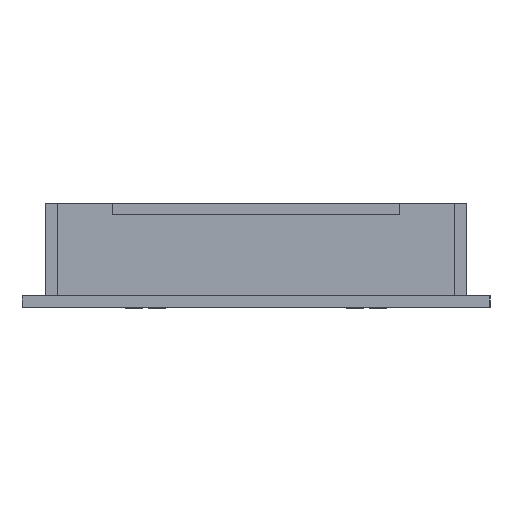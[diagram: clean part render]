
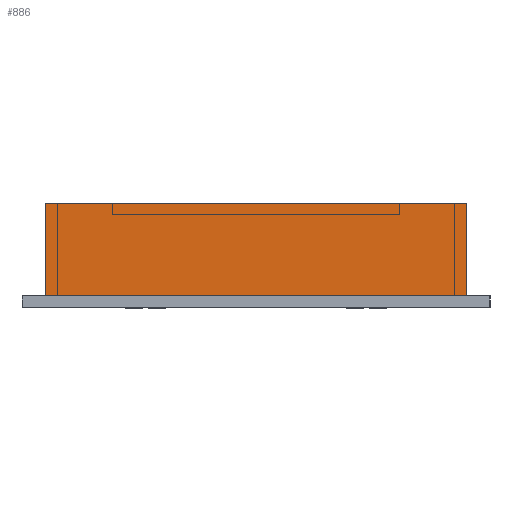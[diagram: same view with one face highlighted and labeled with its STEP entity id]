
A CAD part, left-side view. The second image highlights one B-rep face of the part: STEP entity #886.
In plain terms, the highlighted planar face has unit normal (-1, 0, 0).
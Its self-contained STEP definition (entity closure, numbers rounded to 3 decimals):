
#886=ADVANCED_FACE('',(#1612),#9218,.T.);
#1612=FACE_OUTER_BOUND('',#2356,.T.);
#2356=EDGE_LOOP('',(#4791,#4792,#4793,#4794));
#4791=ORIENTED_EDGE('',*,*,#7240,.T.);
#4792=ORIENTED_EDGE('',*,*,#7229,.T.);
#4793=ORIENTED_EDGE('',*,*,#7230,.F.);
#4794=ORIENTED_EDGE('',*,*,#7231,.F.);
#7229=EDGE_CURVE('',#8600,#8593,#10063,.T.);
#7230=EDGE_CURVE('',#8594,#8593,#10064,.T.);
#7231=EDGE_CURVE('',#8599,#8594,#10065,.T.);
#7240=EDGE_CURVE('',#8599,#8600,#10074,.T.);
#8593=VERTEX_POINT('',#23678);
#8594=VERTEX_POINT('',#23679);
#8599=VERTEX_POINT('',#23684);
#8600=VERTEX_POINT('',#23685);
#9218=PLANE('',#11766);
#10063=B_SPLINE_CURVE_WITH_KNOTS('',1,(#23752,#23753),.UNSPECIFIED.,.F.,
 .F.,(2,2),(0.,25.),.UNSPECIFIED.);
#10064=B_SPLINE_CURVE_WITH_KNOTS('',1,(#23754,#23755),.UNSPECIFIED.,.F.,
 .F.,(2,2),(-3248.564,-3134.564),.UNSPECIFIED.);
#10065=B_SPLINE_CURVE_WITH_KNOTS('',1,(#23756,#23757),.UNSPECIFIED.,.F.,
 .F.,(2,2),(0.,25.),.UNSPECIFIED.);
#10074=B_SPLINE_CURVE_WITH_KNOTS('',1,(#23774,#23775),.UNSPECIFIED.,.F.,
 .F.,(2,2),(-3248.564,-3134.564),.UNSPECIFIED.);
#11766=AXIS2_PLACEMENT_3D('',#22854,#12341,$);
#12341=DIRECTION('',(-1.,0.,0.));
#22854=CARTESIAN_POINT('',(6.5,-6.5,3.));
#23678=CARTESIAN_POINT('',(6.5,-120.5,28.));
#23679=CARTESIAN_POINT('',(6.5,-6.5,28.));
#23684=CARTESIAN_POINT('',(6.5,-6.5,3.));
#23685=CARTESIAN_POINT('',(6.5,-120.5,3.));
#23752=CARTESIAN_POINT('',(6.5,-120.5,3.));
#23753=CARTESIAN_POINT('',(6.5,-120.5,28.));
#23754=CARTESIAN_POINT('',(6.5,-6.5,28.));
#23755=CARTESIAN_POINT('',(6.5,-120.5,28.));
#23756=CARTESIAN_POINT('',(6.5,-6.5,3.));
#23757=CARTESIAN_POINT('',(6.5,-6.5,28.));
#23774=CARTESIAN_POINT('',(6.5,-6.5,3.));
#23775=CARTESIAN_POINT('',(6.5,-120.5,3.));
